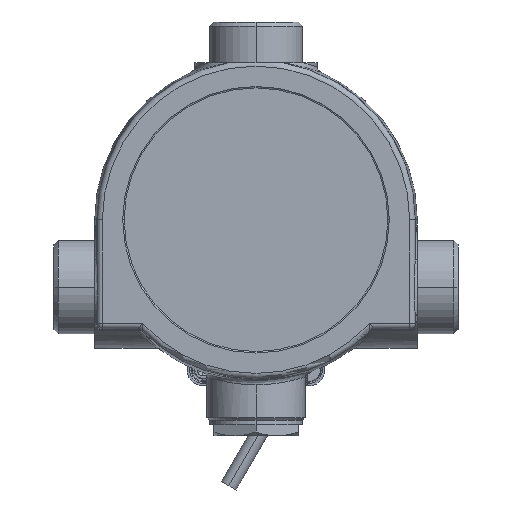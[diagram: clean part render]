
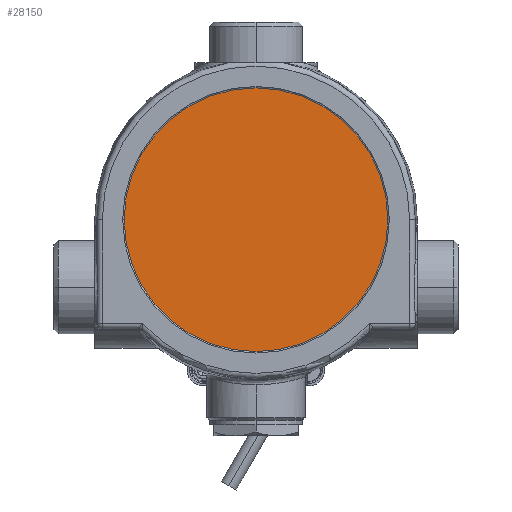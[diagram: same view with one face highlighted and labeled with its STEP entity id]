
A CAD part, top view. The second image highlights one B-rep face of the part: STEP entity #28150.
In plain terms, the highlighted planar face has unit normal (0, 0, 1).
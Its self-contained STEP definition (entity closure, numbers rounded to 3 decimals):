
#7704 = ORIENTED_EDGE ( 'NONE', *, *, #85015, .T. ) ;
#15208 = DIRECTION ( 'NONE',  ( 1., 0., 0. ) ) ;
#17905 = DIRECTION ( 'NONE',  ( 0., 0., 1. ) ) ;
#19355 = AXIS2_PLACEMENT_3D ( 'NONE', #31131, #39575, #15208 ) ;
#22980 = VERTEX_POINT ( 'NONE', #70984 ) ;
#28150 = ADVANCED_FACE ( 'NONE', ( #85609 ), #98023, .T. ) ;
#31131 = CARTESIAN_POINT ( 'NONE',  ( 0., 0., 54.5 ) ) ;
#33526 = CARTESIAN_POINT ( 'NONE',  ( 0., 0., 54.5 ) ) ;
#39575 = DIRECTION ( 'NONE',  ( 0., 0., 1. ) ) ;
#43724 = CARTESIAN_POINT ( 'NONE',  ( 47., 0., 54.5 ) ) ;
#49597 = ORIENTED_EDGE ( 'NONE', *, *, #98735, .T. ) ;
#49681 = CIRCLE ( 'NONE', #60514, 47. ) ;
#50296 = EDGE_LOOP ( 'NONE', ( #49597, #7704 ) ) ;
#52852 = VERTEX_POINT ( 'NONE', #43724 ) ;
#56417 = AXIS2_PLACEMENT_3D ( 'NONE', #59142, #99048, #75393 ) ;
#59142 = CARTESIAN_POINT ( 'NONE',  ( 0., 0., 54.5 ) ) ;
#60514 = AXIS2_PLACEMENT_3D ( 'NONE', #33526, #17905, #64338 ) ;
#64338 = DIRECTION ( 'NONE',  ( 1., 0., 0. ) ) ;
#70984 = CARTESIAN_POINT ( 'NONE',  ( -47., 0., 54.5 ) ) ;
#75393 = DIRECTION ( 'NONE',  ( 1., 0., 0. ) ) ;
#76666 = CIRCLE ( 'NONE', #19355, 47. ) ;
#85015 = EDGE_CURVE ( 'NONE', #22980, #52852, #76666, .T. ) ;
#85609 = FACE_OUTER_BOUND ( 'NONE', #50296, .T. ) ;
#98023 = PLANE ( 'NONE',  #56417 ) ;
#98735 = EDGE_CURVE ( 'NONE', #52852, #22980, #49681, .T. ) ;
#99048 = DIRECTION ( 'NONE',  ( 0., 0., 1. ) ) ;
